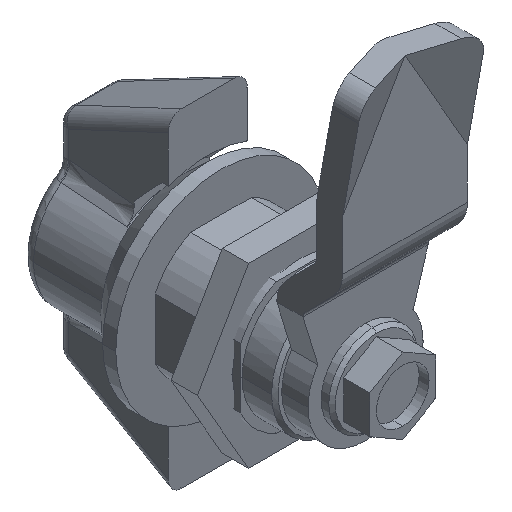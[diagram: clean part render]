
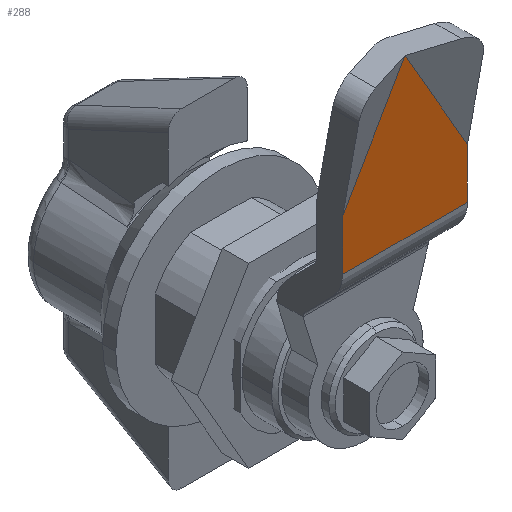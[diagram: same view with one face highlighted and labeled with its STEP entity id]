
A CAD part, isometric view. The second image highlights one B-rep face of the part: STEP entity #288.
In plain terms, the highlighted planar face has unit normal (0, -1, 0).
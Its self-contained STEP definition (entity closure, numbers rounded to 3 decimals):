
#51 = ORIENTED_EDGE ( 'NONE', *, *, #2347, .T. ) ;
#73 = LINE ( 'NONE', #5731, #551 ) ;
#265 = CARTESIAN_POINT ( 'NONE',  ( -28.546, -6., 9.5 ) ) ;
#288 = ADVANCED_FACE ( 'NONE', ( #5943 ), #1295, .F. ) ;
#500 = VERTEX_POINT ( 'NONE', #265 ) ;
#551 = VECTOR ( 'NONE', #1935, 1000. ) ;
#659 = CARTESIAN_POINT ( 'NONE',  ( -11.25, -6., 19.486 ) ) ;
#813 = LINE ( 'NONE', #2674, #1434 ) ;
#926 = CARTESIAN_POINT ( 'NONE',  ( -20.5, -6., 22.152 ) ) ;
#1179 = LINE ( 'NONE', #659, #4736 ) ;
#1295 = PLANE ( 'NONE',  #5773 ) ;
#1434 = VECTOR ( 'NONE', #5491, 1000. ) ;
#1643 = CARTESIAN_POINT ( 'NONE',  ( -45., -6., 0. ) ) ;
#1730 = ORIENTED_EDGE ( 'NONE', *, *, #4366, .T. ) ;
#1935 = DIRECTION ( 'NONE',  ( 1., 0., 0. ) ) ;
#2072 = EDGE_LOOP ( 'NONE', ( #51, #5470, #4022, #2699, #1730 ) ) ;
#2131 = VERTEX_POINT ( 'NONE', #1643 ) ;
#2183 = VECTOR ( 'NONE', #2336, 1000. ) ;
#2336 = DIRECTION ( 'NONE',  ( 1., 0., 0. ) ) ;
#2347 = EDGE_CURVE ( 'NONE', #3436, #3164, #6006, .T. ) ;
#2360 = CARTESIAN_POINT ( 'NONE',  ( -20.909, -6., -9.5 ) ) ;
#2585 = DIRECTION ( 'NONE',  ( -0.866, 0., -0.5 ) ) ;
#2674 = CARTESIAN_POINT ( 'NONE',  ( -11.25, -6., -19.486 ) ) ;
#2698 = DIRECTION ( 'NONE',  ( 0., 0., 1. ) ) ;
#2699 = ORIENTED_EDGE ( 'NONE', *, *, #2968, .T. ) ;
#2968 = EDGE_CURVE ( 'NONE', #500, #2131, #1179, .T. ) ;
#3164 = VERTEX_POINT ( 'NONE', #2360 ) ;
#3436 = VERTEX_POINT ( 'NONE', #5066 ) ;
#3867 = LINE ( 'NONE', #4392, #6019 ) ;
#3903 = DIRECTION ( 'NONE',  ( 0., 0., 1. ) ) ;
#4022 = ORIENTED_EDGE ( 'NONE', *, *, #4156, .F. ) ;
#4156 = EDGE_CURVE ( 'NONE', #500, #5783, #73, .T. ) ;
#4350 = CARTESIAN_POINT ( 'NONE',  ( -20.909, -6., 9.5 ) ) ;
#4366 = EDGE_CURVE ( 'NONE', #2131, #3436, #813, .T. ) ;
#4392 = CARTESIAN_POINT ( 'NONE',  ( -20.909, -6., 22.152 ) ) ;
#4503 = DIRECTION ( 'NONE',  ( 0., 1., 0. ) ) ;
#4736 = VECTOR ( 'NONE', #2585, 1000. ) ;
#5066 = CARTESIAN_POINT ( 'NONE',  ( -28.546, -6., -9.5 ) ) ;
#5124 = EDGE_CURVE ( 'NONE', #3164, #5783, #3867, .T. ) ;
#5470 = ORIENTED_EDGE ( 'NONE', *, *, #5124, .T. ) ;
#5491 = DIRECTION ( 'NONE',  ( 0.866, 0., -0.5 ) ) ;
#5607 = CARTESIAN_POINT ( 'NONE',  ( -20.5, -6., -9.5 ) ) ;
#5731 = CARTESIAN_POINT ( 'NONE',  ( -20.5, -6., 9.5 ) ) ;
#5773 = AXIS2_PLACEMENT_3D ( 'NONE', #926, #4503, #2698 ) ;
#5783 = VERTEX_POINT ( 'NONE', #4350 ) ;
#5943 = FACE_OUTER_BOUND ( 'NONE', #2072, .T. ) ;
#6006 = LINE ( 'NONE', #5607, #2183 ) ;
#6019 = VECTOR ( 'NONE', #3903, 1000. ) ;
